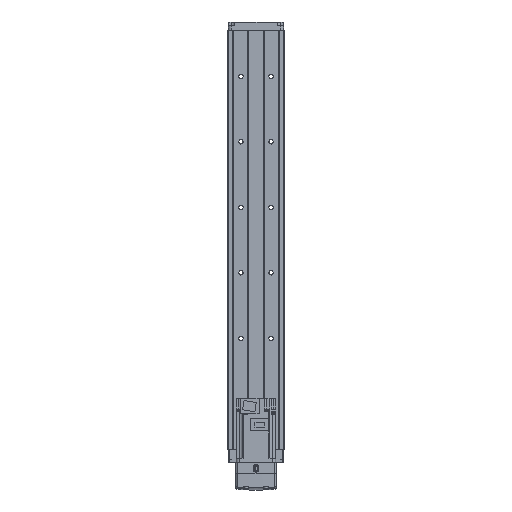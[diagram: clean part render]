
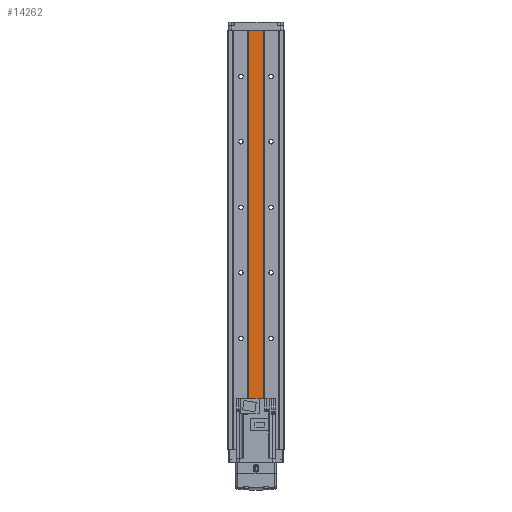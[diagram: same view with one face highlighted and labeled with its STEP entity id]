
A CAD part, front view. The second image highlights one B-rep face of the part: STEP entity #14262.
In plain terms, the highlighted planar face has unit normal (0, -1, 0).
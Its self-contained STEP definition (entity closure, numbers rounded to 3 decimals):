
#171 = DIRECTION ( 'NONE',  ( 1., 0., 0. ) ) ;
#407 = VECTOR ( 'NONE', #171, 1000. ) ;
#1103 = LINE ( 'NONE', #40387, #38435 ) ;
#1684 = DIRECTION ( 'NONE',  ( -1., 0., 0. ) ) ;
#7239 = ORIENTED_EDGE ( 'NONE', *, *, #26710, .F. ) ;
#7692 = VERTEX_POINT ( 'NONE', #41501 ) ;
#8135 = PLANE ( 'NONE',  #28388 ) ;
#10650 = CARTESIAN_POINT ( 'NONE',  ( -12.269, -13.462, 640. ) ) ;
#13657 = ORIENTED_EDGE ( 'NONE', *, *, #20362, .F. ) ;
#14262 = ADVANCED_FACE ( 'NONE', ( #25764 ), #8135, .F. ) ;
#15157 = DIRECTION ( 'NONE',  ( 0., 0., 1. ) ) ;
#17985 = LINE ( 'NONE', #18575, #38287 ) ;
#18037 = CARTESIAN_POINT ( 'NONE',  ( 11.731, -13.462, 0. ) ) ;
#18496 = LINE ( 'NONE', #37570, #407 ) ;
#18575 = CARTESIAN_POINT ( 'NONE',  ( -12.269, -13.462, 640. ) ) ;
#20101 = ORIENTED_EDGE ( 'NONE', *, *, #32402, .F. ) ;
#20362 = EDGE_CURVE ( 'NONE', #37976, #22136, #17985, .T. ) ;
#21884 = EDGE_LOOP ( 'NONE', ( #7239, #13657, #30752, #20101 ) ) ;
#22136 = VERTEX_POINT ( 'NONE', #10650 ) ;
#25764 = FACE_OUTER_BOUND ( 'NONE', #21884, .T. ) ;
#26710 = EDGE_CURVE ( 'NONE', #22136, #7692, #18496, .T. ) ;
#28388 = AXIS2_PLACEMENT_3D ( 'NONE', #28699, #31840, #38703 ) ;
#28699 = CARTESIAN_POINT ( 'NONE',  ( -12.269, -13.462, 640. ) ) ;
#30552 = CARTESIAN_POINT ( 'NONE',  ( -12.269, -13.462, 0. ) ) ;
#30752 = ORIENTED_EDGE ( 'NONE', *, *, #37799, .F. ) ;
#31840 = DIRECTION ( 'NONE',  ( 0., 1., 0. ) ) ;
#32402 = EDGE_CURVE ( 'NONE', #7692, #36801, #1103, .T. ) ;
#33227 = VECTOR ( 'NONE', #1684, 1000. ) ;
#36801 = VERTEX_POINT ( 'NONE', #18037 ) ;
#37570 = CARTESIAN_POINT ( 'NONE',  ( -12.269, -13.462, 640. ) ) ;
#37799 = EDGE_CURVE ( 'NONE', #36801, #37976, #42278, .T. ) ;
#37976 = VERTEX_POINT ( 'NONE', #30552 ) ;
#38287 = VECTOR ( 'NONE', #15157, 1000. ) ;
#38435 = VECTOR ( 'NONE', #43762, 1000. ) ;
#38703 = DIRECTION ( 'NONE',  ( 0., 0., 1. ) ) ;
#39225 = CARTESIAN_POINT ( 'NONE',  ( -12.269, -13.462, 0. ) ) ;
#40387 = CARTESIAN_POINT ( 'NONE',  ( 11.731, -13.462, 640. ) ) ;
#41501 = CARTESIAN_POINT ( 'NONE',  ( 11.731, -13.462, 640. ) ) ;
#42278 = LINE ( 'NONE', #39225, #33227 ) ;
#43762 = DIRECTION ( 'NONE',  ( 0., 0., -1. ) ) ;
